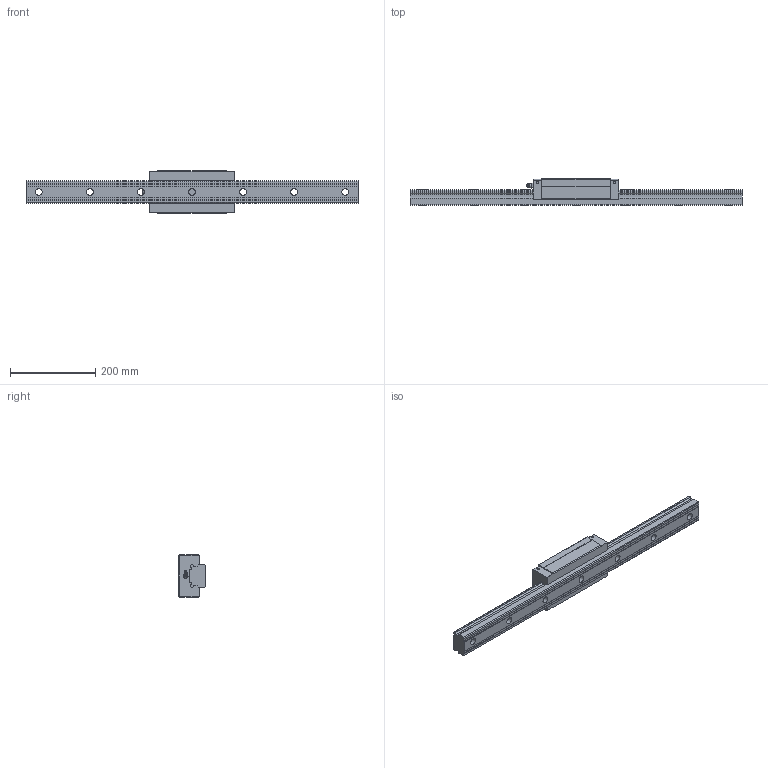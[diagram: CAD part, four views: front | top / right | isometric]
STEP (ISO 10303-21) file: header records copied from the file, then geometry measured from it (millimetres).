
FILE_DESCRIPTION(/* description */ ('STEP AP203'),/* implementation_level */ '2;1');
FILE_NAME(/* name */ 'SVS55LR1SS-780L_G30_0_B-PT18_289-75_0_0_0_1',/* time_stamp */ '2024-05-16T11:57:22+02:00',/* author */ ('License CC BY-ND 4.0'),/* organization */ ('CADENAS'),/* preprocessor_version */ 'ST-DEVELOPER v19.3',/* originating_system */ 'PARTsolutions',/* authorisation */ ' ');
FILE_SCHEMA (('CONFIG_CONTROL_DESIGN'));
Length unit declared in the file: millimetre
Products named in the file (4): SVS55LR1SS-780L_G30_0_B-PT18_289-75_0_0_0_1; SVR 55LR78030 R Track; SVR 55LR1SSB-PT1/81 Slide; B-PT1/8_grease_nipple_joint1_SVR
Assembly tree (3 placements, depth 2):
  SVS55LR1SS-780L_G30_0_B-PT18_289-75_0_0_0_1
    SVR 55LR78030 R Track
    SVR 55LR1SSB-PT1/81 Slide
    B-PT1/8_grease_nipple_joint1_SVR
Bounding box: 780 x 63 x 100 mm (x, y, z)
Volume: 2056933.9 mm3; surface area: 242390.3 mm2
Topology: 3 solids, 3 shells, 186 faces, 486 edges, 319 vertices
Faces by surface type: plane 100, cylinder 57, cone 24, torus 3, sphere 2
Full cylindrical faces by diameter (mm): 5.2 x4, 9.6 x1, 10.106 x6, 16 x7, 23 x7
Entity records: 5468 total; most frequent: CARTESIAN_POINT 1031, DIRECTION 902, ORIENTED_EDGE 818, EDGE_CURVE 409, AXIS2_PLACEMENT_3D 330, VERTEX_POINT 304, FACE_BOUND 275, EDGE_LOOP 267
